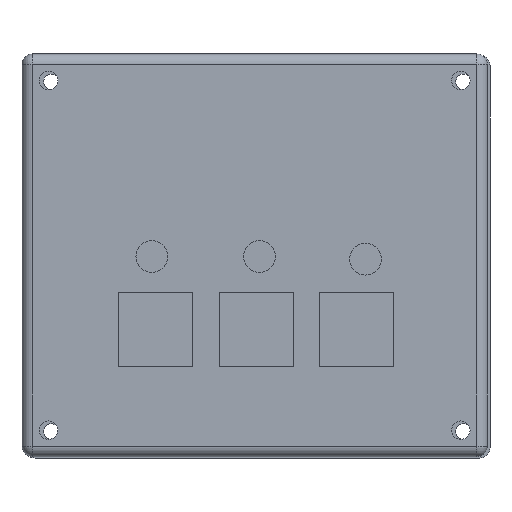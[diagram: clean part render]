
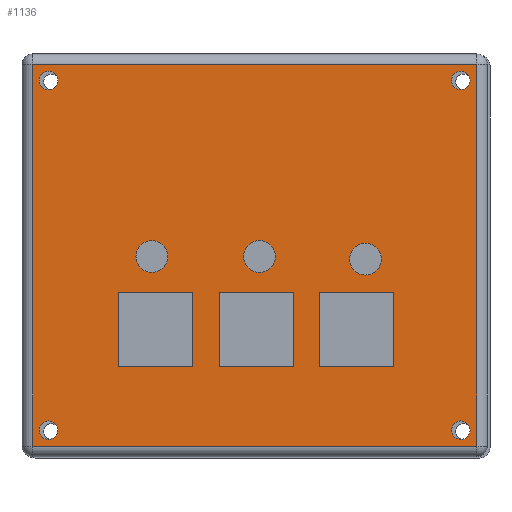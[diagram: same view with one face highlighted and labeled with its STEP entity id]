
A CAD part, front view. The second image highlights one B-rep face of the part: STEP entity #1136.
In plain terms, the highlighted planar face has unit normal (0, -1, 0).
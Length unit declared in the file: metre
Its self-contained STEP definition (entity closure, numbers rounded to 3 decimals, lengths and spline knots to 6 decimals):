
#63=CIRCLE('',#1244,0.003);
#64=CIRCLE('',#1245,0.003);
#65=CIRCLE('',#1246,0.003);
#66=CIRCLE('',#1247,0.00175);
#67=CIRCLE('',#1248,0.00175);
#68=CIRCLE('',#1249,0.00175);
#69=CIRCLE('',#1250,0.00175);
#117=ORIENTED_EDGE('',*,*,#425,.T.);
#118=ORIENTED_EDGE('',*,*,#426,.T.);
#119=ORIENTED_EDGE('',*,*,#427,.T.);
#120=ORIENTED_EDGE('',*,*,#428,.T.);
#121=ORIENTED_EDGE('',*,*,#429,.T.);
#122=ORIENTED_EDGE('',*,*,#430,.T.);
#123=ORIENTED_EDGE('',*,*,#431,.T.);
#124=ORIENTED_EDGE('',*,*,#432,.F.);
#125=ORIENTED_EDGE('',*,*,#433,.F.);
#126=ORIENTED_EDGE('',*,*,#434,.T.);
#127=ORIENTED_EDGE('',*,*,#435,.T.);
#128=ORIENTED_EDGE('',*,*,#436,.F.);
#129=ORIENTED_EDGE('',*,*,#437,.F.);
#130=ORIENTED_EDGE('',*,*,#438,.T.);
#131=ORIENTED_EDGE('',*,*,#439,.T.);
#132=ORIENTED_EDGE('',*,*,#440,.F.);
#133=ORIENTED_EDGE('',*,*,#441,.F.);
#134=ORIENTED_EDGE('',*,*,#442,.T.);
#135=ORIENTED_EDGE('',*,*,#443,.T.);
#136=ORIENTED_EDGE('',*,*,#444,.T.);
#137=ORIENTED_EDGE('',*,*,#445,.F.);
#138=ORIENTED_EDGE('',*,*,#446,.F.);
#139=ORIENTED_EDGE('',*,*,#447,.T.);
#425=EDGE_CURVE('',#579,#580,#681,.T.);
#426=EDGE_CURVE('',#580,#581,#682,.T.);
#427=EDGE_CURVE('',#581,#582,#683,.F.);
#428=EDGE_CURVE('',#582,#579,#684,.F.);
#429=EDGE_CURVE('',#583,#583,#63,.F.);
#430=EDGE_CURVE('',#584,#584,#64,.F.);
#431=EDGE_CURVE('',#585,#585,#65,.F.);
#432=EDGE_CURVE('',#586,#587,#685,.T.);
#433=EDGE_CURVE('',#588,#586,#686,.T.);
#434=EDGE_CURVE('',#588,#589,#687,.T.);
#435=EDGE_CURVE('',#589,#587,#688,.T.);
#436=EDGE_CURVE('',#590,#591,#689,.T.);
#437=EDGE_CURVE('',#592,#590,#690,.T.);
#438=EDGE_CURVE('',#592,#593,#691,.T.);
#439=EDGE_CURVE('',#593,#591,#692,.T.);
#440=EDGE_CURVE('',#594,#595,#693,.T.);
#441=EDGE_CURVE('',#596,#594,#694,.T.);
#442=EDGE_CURVE('',#596,#597,#695,.T.);
#443=EDGE_CURVE('',#597,#595,#696,.T.);
#444=EDGE_CURVE('',#598,#598,#66,.F.);
#445=EDGE_CURVE('',#599,#599,#67,.T.);
#446=EDGE_CURVE('',#600,#600,#68,.T.);
#447=EDGE_CURVE('',#601,#601,#69,.F.);
#579=VERTEX_POINT('',#1729);
#580=VERTEX_POINT('',#1730);
#581=VERTEX_POINT('',#1732);
#582=VERTEX_POINT('',#1734);
#583=VERTEX_POINT('',#1737);
#584=VERTEX_POINT('',#1739);
#585=VERTEX_POINT('',#1741);
#586=VERTEX_POINT('',#1743);
#587=VERTEX_POINT('',#1744);
#588=VERTEX_POINT('',#1746);
#589=VERTEX_POINT('',#1748);
#590=VERTEX_POINT('',#1751);
#591=VERTEX_POINT('',#1752);
#592=VERTEX_POINT('',#1754);
#593=VERTEX_POINT('',#1756);
#594=VERTEX_POINT('',#1759);
#595=VERTEX_POINT('',#1760);
#596=VERTEX_POINT('',#1762);
#597=VERTEX_POINT('',#1764);
#598=VERTEX_POINT('',#1767);
#599=VERTEX_POINT('',#1769);
#600=VERTEX_POINT('',#1771);
#601=VERTEX_POINT('',#1773);
#681=LINE('',#1728,#781);
#682=LINE('',#1731,#782);
#683=LINE('',#1733,#783);
#684=LINE('',#1735,#784);
#685=LINE('',#1742,#785);
#686=LINE('',#1745,#786);
#687=LINE('',#1747,#787);
#688=LINE('',#1749,#788);
#689=LINE('',#1750,#789);
#690=LINE('',#1753,#790);
#691=LINE('',#1755,#791);
#692=LINE('',#1757,#792);
#693=LINE('',#1758,#793);
#694=LINE('',#1761,#794);
#695=LINE('',#1763,#795);
#696=LINE('',#1765,#796);
#781=VECTOR('',#1374,1.);
#782=VECTOR('',#1375,1.);
#783=VECTOR('',#1376,1.);
#784=VECTOR('',#1377,1.);
#785=VECTOR('',#1384,1.);
#786=VECTOR('',#1385,1.);
#787=VECTOR('',#1386,1.);
#788=VECTOR('',#1387,1.);
#789=VECTOR('',#1388,1.);
#790=VECTOR('',#1389,1.);
#791=VECTOR('',#1390,1.);
#792=VECTOR('',#1391,1.);
#793=VECTOR('',#1392,1.);
#794=VECTOR('',#1393,1.);
#795=VECTOR('',#1394,1.);
#796=VECTOR('',#1395,1.);
#881=EDGE_LOOP('',(#117,#118,#119,#120));
#882=EDGE_LOOP('',(#121));
#883=EDGE_LOOP('',(#122));
#884=EDGE_LOOP('',(#123));
#885=EDGE_LOOP('',(#124,#125,#126,#127));
#886=EDGE_LOOP('',(#128,#129,#130,#131));
#887=EDGE_LOOP('',(#132,#133,#134,#135));
#888=EDGE_LOOP('',(#136));
#889=EDGE_LOOP('',(#137));
#890=EDGE_LOOP('',(#138));
#891=EDGE_LOOP('',(#139));
#991=FACE_BOUND('',#881,.T.);
#992=FACE_BOUND('',#882,.T.);
#993=FACE_BOUND('',#883,.T.);
#994=FACE_BOUND('',#884,.T.);
#995=FACE_BOUND('',#885,.T.);
#996=FACE_BOUND('',#886,.T.);
#997=FACE_BOUND('',#887,.T.);
#998=FACE_BOUND('',#888,.T.);
#999=FACE_BOUND('',#889,.T.);
#1000=FACE_BOUND('',#890,.T.);
#1001=FACE_BOUND('',#891,.T.);
#1101=PLANE('',#1243);
#1136=ADVANCED_FACE('',(#991,#992,#993,#994,#995,#996,#997,#998,#999,#1000,#1001),#1101,.T.);
#1243=AXIS2_PLACEMENT_3D('',#1727,#1372,#1373);
#1244=AXIS2_PLACEMENT_3D('',#1736,#1378,#1379);
#1245=AXIS2_PLACEMENT_3D('',#1738,#1380,#1381);
#1246=AXIS2_PLACEMENT_3D('',#1740,#1382,#1383);
#1247=AXIS2_PLACEMENT_3D('',#1766,#1396,#1397);
#1248=AXIS2_PLACEMENT_3D('',#1768,#1398,#1399);
#1249=AXIS2_PLACEMENT_3D('',#1770,#1400,#1401);
#1250=AXIS2_PLACEMENT_3D('',#1772,#1402,#1403);
#1372=DIRECTION('',(0.,-1.,0.));
#1373=DIRECTION('',(1.,0.,0.));
#1374=DIRECTION('',(0.,0.,1.));
#1375=DIRECTION('',(-1.,0.,0.));
#1376=DIRECTION('',(0.,0.,1.));
#1377=DIRECTION('',(-1.,0.,0.));
#1378=DIRECTION('',(0.,-1.,0.));
#1379=DIRECTION('',(0.,0.,-1.));
#1380=DIRECTION('',(0.,-1.,0.));
#1381=DIRECTION('',(0.,0.,-1.));
#1382=DIRECTION('',(0.,-1.,0.));
#1383=DIRECTION('',(0.,0.,-1.));
#1384=DIRECTION('',(1.,0.,0.));
#1385=DIRECTION('',(0.,0.,-1.));
#1386=DIRECTION('',(1.,0.,0.));
#1387=DIRECTION('',(0.,0.,-1.));
#1388=DIRECTION('',(1.,0.,0.));
#1389=DIRECTION('',(0.,0.,-1.));
#1390=DIRECTION('',(1.,0.,0.));
#1391=DIRECTION('',(0.,0.,-1.));
#1392=DIRECTION('',(1.,0.,0.));
#1393=DIRECTION('',(0.,0.,-1.));
#1394=DIRECTION('',(1.,0.,0.));
#1395=DIRECTION('',(0.,0.,-1.));
#1396=DIRECTION('',(0.,-1.,0.));
#1397=DIRECTION('',(0.,0.,-1.));
#1398=DIRECTION('',(0.,-1.,0.));
#1399=DIRECTION('',(0.,0.,-1.));
#1400=DIRECTION('',(0.,-1.,0.));
#1401=DIRECTION('',(0.,0.,-1.));
#1402=DIRECTION('',(0.,-1.,0.));
#1403=DIRECTION('',(0.,0.,-1.));
#1727=CARTESIAN_POINT('',(0.,-0.005,0.));
#1728=CARTESIAN_POINT('',(0.0419,-0.005,0.038));
#1729=CARTESIAN_POINT('',(0.0419,-0.005,-0.036));
#1730=CARTESIAN_POINT('',(0.0419,-0.005,0.036));
#1731=CARTESIAN_POINT('',(-0.0439,-0.005,0.036));
#1732=CARTESIAN_POINT('',(-0.0419,-0.005,0.036));
#1733=CARTESIAN_POINT('',(-0.0419,-0.005,0.));
#1734=CARTESIAN_POINT('',(-0.0419,-0.005,-0.036));
#1735=CARTESIAN_POINT('',(0.,-0.005,-0.036));
#1736=CARTESIAN_POINT('',(0.0209,-0.005,-0.00073));
#1737=CARTESIAN_POINT('',(0.0209,-0.005,-0.00373));
#1738=CARTESIAN_POINT('',(-0.0194,-0.005,-0.00023));
#1739=CARTESIAN_POINT('',(-0.0194,-0.005,-0.00323));
#1740=CARTESIAN_POINT('',(0.0009,-0.005,-0.00023));
#1741=CARTESIAN_POINT('',(0.0009,-0.005,-0.00323));
#1742=CARTESIAN_POINT('',(0.,-0.005,-0.021));
#1743=CARTESIAN_POINT('',(0.01233,-0.005,-0.021));
#1744=CARTESIAN_POINT('',(0.0263,-0.005,-0.021));
#1745=CARTESIAN_POINT('',(0.01233,-0.005,0.));
#1746=CARTESIAN_POINT('',(0.01233,-0.005,-0.00703));
#1747=CARTESIAN_POINT('',(0.,-0.005,-0.00703));
#1748=CARTESIAN_POINT('',(0.0263,-0.005,-0.00703));
#1749=CARTESIAN_POINT('',(0.0263,-0.005,0.));
#1750=CARTESIAN_POINT('',(0.,-0.005,-0.021));
#1751=CARTESIAN_POINT('',(-0.00664,-0.005,-0.021));
#1752=CARTESIAN_POINT('',(0.00733,-0.005,-0.021));
#1753=CARTESIAN_POINT('',(-0.00664,-0.005,0.));
#1754=CARTESIAN_POINT('',(-0.00664,-0.005,-0.00703));
#1755=CARTESIAN_POINT('',(0.,-0.005,-0.00703));
#1756=CARTESIAN_POINT('',(0.00733,-0.005,-0.00703));
#1757=CARTESIAN_POINT('',(0.00733,-0.005,0.));
#1758=CARTESIAN_POINT('',(0.,-0.005,-0.021));
#1759=CARTESIAN_POINT('',(-0.02561,-0.005,-0.021));
#1760=CARTESIAN_POINT('',(-0.01164,-0.005,-0.021));
#1761=CARTESIAN_POINT('',(-0.02561,-0.005,0.));
#1762=CARTESIAN_POINT('',(-0.02561,-0.005,-0.00703));
#1763=CARTESIAN_POINT('',(0.,-0.005,-0.00703));
#1764=CARTESIAN_POINT('',(-0.01164,-0.005,-0.00703));
#1765=CARTESIAN_POINT('',(-0.01164,-0.005,0.));
#1766=CARTESIAN_POINT('',(-0.0389,-0.005,0.033));
#1767=CARTESIAN_POINT('',(-0.0389,-0.005,0.03125));
#1768=CARTESIAN_POINT('',(-0.0389,-0.005,-0.033));
#1769=CARTESIAN_POINT('',(-0.0389,-0.005,-0.03475));
#1770=CARTESIAN_POINT('',(0.0389,-0.005,0.033));
#1771=CARTESIAN_POINT('',(0.0389,-0.005,0.03125));
#1772=CARTESIAN_POINT('',(0.0389,-0.005,-0.033));
#1773=CARTESIAN_POINT('',(0.0389,-0.005,-0.03475));
